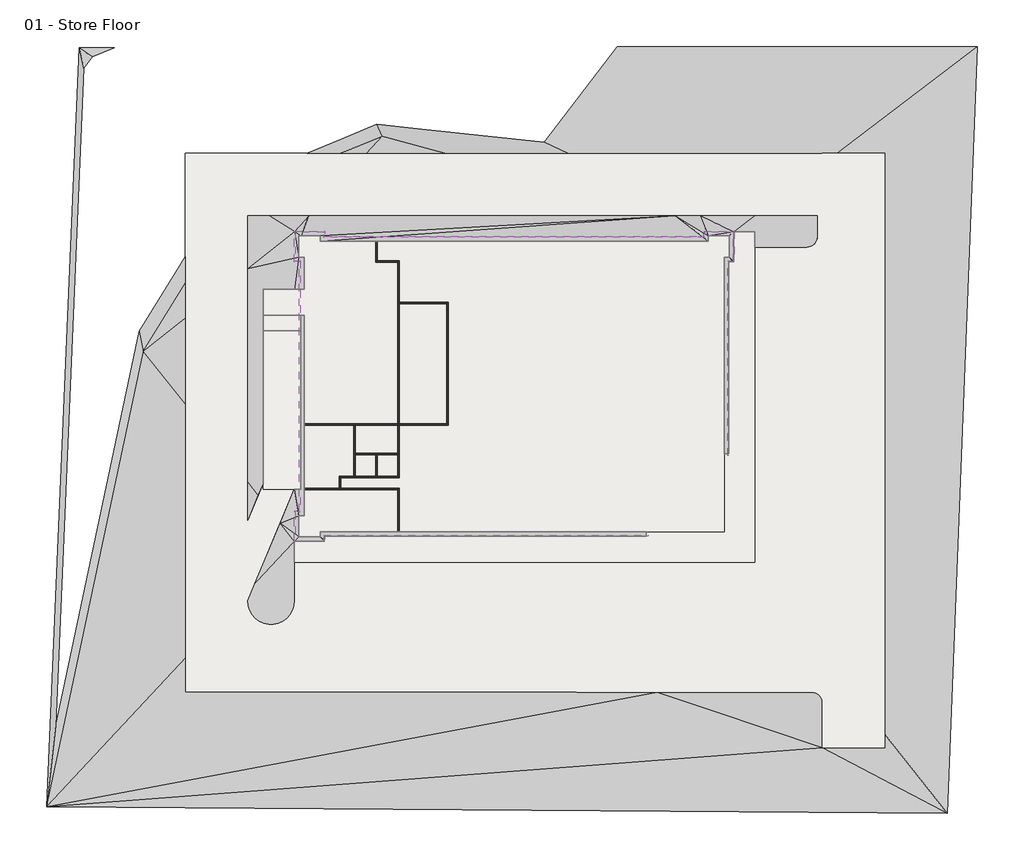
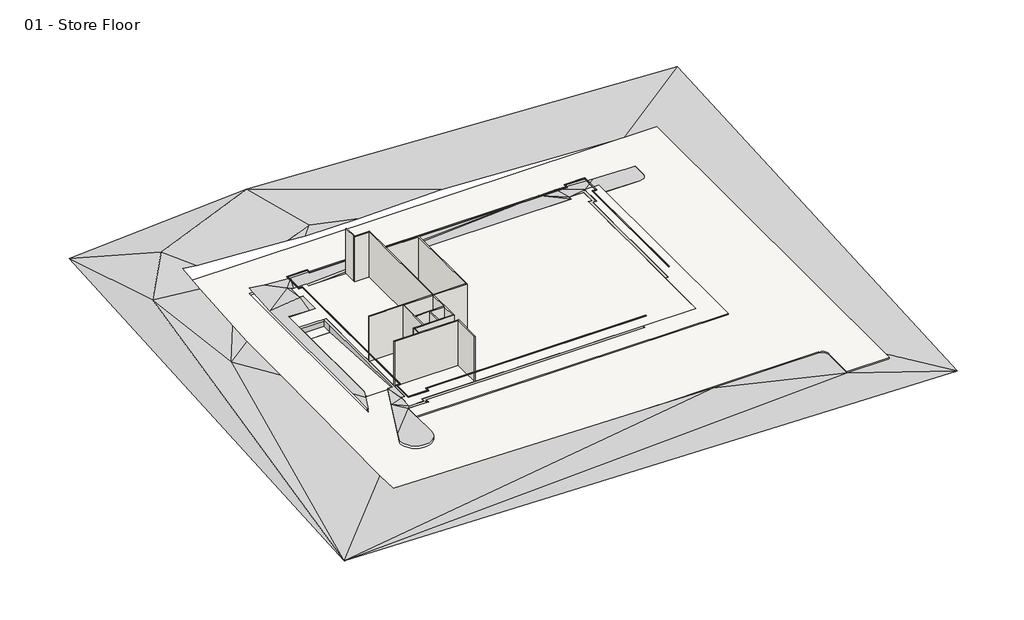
# One storey, incomplete: 21 proxies, 13 walls, 5 slabs.
"""IFC4 building model written with IfcOpenShell, lengths in millimetres."""

from ifc_helpers import new_model, si_unit, point, frame, frame_2d, origin, origin_with_axes, place, context, project, spatial, polyline, circle_curve, trimmed, segment, composite_curve, outline, extrude, faceted_brep, triangles, element, save

model = new_model("IFC4")

# Units and contexts
model_context = context("Model", 3, world=origin())
ifc_project = project(units=[si_unit("LENGTHUNIT", "METRE", prefix="MILLI")], contexts=[model_context])

# Site, building, storey
site = spatial("IfcSite", under=ifc_project)
building = spatial("IfcBuilding", under=site)
storey = spatial("IfcBuildingStorey", under=building, Name="01 - Store Floor", Elevation=0.0)

# Proxies
placement = place(None, origin())
element("IfcBuildingElementProxy", 1, Name="Reveals", at=placement, inside=storey, context=model_context, shape_type="SweptSolid", body=[
    extrude(outline(polyline([(11070.0272279, -14331.9313057), (11070.0272279, -14434.4313057), (-20003.9727721, -14434.4313057), (-20106.4727721, -14331.9313057), (11070.0272279, -14331.9313057)])), frame((0.0, 0.0, 1675.0), z_axis=(0.0, 0.0, 1.0), x_axis=(1.0, 0.0, 0.0)), (0.0, 0.0, 1.0), 75.0),
])
element("IfcBuildingElementProxy", 2, Name="Reveals", at=placement, inside=storey, context=model_context, shape_type="SweptSolid", body=[
    extrude(outline(polyline([(-20106.4727721, -14331.9313057), (-20003.9727721, -14434.4313057), (-20003.9727721, -14934.2313057), (-20106.4727721, -14831.7313057), (-20106.4727721, -14331.9313057)])), frame((0.0, 0.0, 1675.0), z_axis=(0.0, 0.0, 1.0), x_axis=(1.0, 0.0, 0.0)), (0.0, 0.0, 1.0), 75.0),
])
element("IfcBuildingElementProxy", 3, Name="Reveals", at=placement, inside=storey, context=model_context, shape_type="SweptSolid", body=[
    extrude(outline(polyline([(-20106.4727721, -14831.7313057), (-20003.9727721, -14934.2313057), (-22946.9727721, -14934.2313057), (-22844.4727721, -14831.7313057), (-20106.4727721, -14831.7313057)])), frame((0.0, 0.0, 1675.0), z_axis=(0.0, 0.0, 1.0), x_axis=(1.0, 0.0, 0.0)), (0.0, 0.0, 1.0), 75.0),
])
element("IfcBuildingElementProxy", 4, Name="Reveals", at=placement, inside=storey, context=model_context, shape_type="SweptSolid", body=[
    extrude(outline(polyline([(-22844.4727721, -14831.7313057), (-22946.9727721, -14934.2313057), (-22946.9727721, -11991.2313057), (-22844.4727721, -12093.7313057), (-22844.4727721, -14831.7313057)])), frame((0.0, 0.0, 1675.0), z_axis=(0.0, 0.0, 1.0), x_axis=(1.0, 0.0, 0.0)), (0.0, 0.0, 1.0), 75.0),
])
element("IfcBuildingElementProxy", 5, Name="Reveals", at=placement, inside=storey, context=model_context, shape_type="SweptSolid", body=[
    extrude(outline(polyline([(-22844.4727721, -12093.7313057), (-22946.9727721, -11991.2313057), (-22446.9727721, -11991.2313057), (-22344.4727721, -12093.7313057), (-22844.4727721, -12093.7313057)])), frame((0.0, 0.0, 1675.0), z_axis=(0.0, 0.0, 1.0), x_axis=(1.0, 0.0, 0.0)), (0.0, 0.0, 1.0), 75.0),
])
element("IfcBuildingElementProxy", 6, Name="Reveals", at=placement, inside=storey, context=model_context, shape_type="SweptSolid", body=[
    extrude(outline(polyline([(-22344.4727721, -12093.7313057), (-22446.9727721, -11991.2313057), (-22446.9727721, 11927.5686943), (-22344.4727721, 12030.0686943), (-22344.4727721, -12093.7313057)])), frame((0.0, 0.0, 1675.0), z_axis=(0.0, 0.0, 1.0), x_axis=(1.0, 0.0, 0.0)), (0.0, 0.0, 1.0), 75.0),
])
element("IfcBuildingElementProxy", 7, Name="Reveals", at=placement, inside=storey, context=model_context, shape_type="SweptSolid", body=[
    extrude(outline(polyline([(-22344.4727721, 12030.0686943), (-22446.9727721, 11927.5686943), (-22946.9727721, 11927.5686943), (-22844.4727721, 12030.0686943), (-22344.4727721, 12030.0686943)])), frame((0.0, 0.0, 1675.0), z_axis=(0.0, 0.0, 1.0), x_axis=(1.0, 0.0, 0.0)), (0.0, 0.0, 1.0), 75.0),
])
element("IfcBuildingElementProxy", 8, Name="Reveals", at=placement, inside=storey, context=model_context, shape_type="SweptSolid", body=[
    extrude(outline(polyline([(-22844.4727721, 12030.0686943), (-22946.9727721, 11927.5686943), (-22946.9727721, 14870.5686943), (-22844.4727721, 14768.0686943), (-22844.4727721, 12030.0686943)])), frame((0.0, 0.0, 1675.0), z_axis=(0.0, 0.0, 1.0), x_axis=(1.0, 0.0, 0.0)), (0.0, 0.0, 1.0), 75.0),
])
element("IfcBuildingElementProxy", 9, Name="Reveals", at=placement, inside=storey, context=model_context, shape_type="SweptSolid", body=[
    extrude(outline(polyline([(-22844.4727721, 14768.0686943), (-22946.9727721, 14870.5686943), (-20003.9727721, 14870.5686943), (-20106.4727721, 14768.0686943), (-22844.4727721, 14768.0686943)])), frame((0.0, 0.0, 1675.0), z_axis=(0.0, 0.0, 1.0), x_axis=(1.0, 0.0, 0.0)), (0.0, 0.0, 1.0), 75.0),
])
element("IfcBuildingElementProxy", 10, Name="Reveals", at=placement, inside=storey, context=model_context, shape_type="SweptSolid", body=[
    extrude(outline(polyline([(-20106.4727721, 14768.0686943), (-20003.9727721, 14870.5686943), (-20003.9727721, 14370.5686943), (-20106.4727721, 14268.0686943), (-20106.4727721, 14768.0686943)])), frame((0.0, 0.0, 1675.0), z_axis=(0.0, 0.0, 1.0), x_axis=(1.0, 0.0, 0.0)), (0.0, 0.0, 1.0), 75.0),
])
element("IfcBuildingElementProxy", 11, Name="Reveals", at=placement, inside=storey, context=model_context, shape_type="SweptSolid", body=[
    extrude(outline(polyline([(-20106.4727721, 14268.0686943), (-20003.9727721, 14370.5686943), (16365.0272279, 14370.5686943), (16467.5272279, 14268.0686943), (-20106.4727721, 14268.0686943)])), frame((0.0, 0.0, 1675.0), z_axis=(0.0, 0.0, 1.0), x_axis=(1.0, 0.0, 0.0)), (0.0, 0.0, 1.0), 75.0),
])
element("IfcBuildingElementProxy", 12, Name="Reveals", at=placement, inside=storey, context=model_context, shape_type="SweptSolid", body=[
    extrude(outline(polyline([(16467.5272279, 14268.0686943), (16365.0272279, 14370.5686943), (16365.0272279, 14870.5686943), (16467.5272279, 14768.0686943), (16467.5272279, 14268.0686943)])), frame((0.0, 0.0, 1675.0), z_axis=(0.0, 0.0, 1.0), x_axis=(1.0, 0.0, 0.0)), (0.0, 0.0, 1.0), 75.0),
])
element("IfcBuildingElementProxy", 13, Name="Reveals", at=placement, inside=storey, context=model_context, shape_type="SweptSolid", body=[
    extrude(outline(polyline([(16467.5272279, 14768.0686943), (16365.0272279, 14870.5686943), (19308.0272279, 14870.5686943), (19205.5272279, 14768.0686943), (16467.5272279, 14768.0686943)])), frame((0.0, 0.0, 1675.0), z_axis=(0.0, 0.0, 1.0), x_axis=(1.0, 0.0, 0.0)), (0.0, 0.0, 1.0), 75.0),
])
element("IfcBuildingElementProxy", 14, Name="Reveals", at=placement, inside=storey, context=model_context, shape_type="SweptSolid", body=[
    extrude(outline(polyline([(19205.5272279, 14768.0686943), (19308.0272279, 14870.5686943), (19308.0272279, 11927.5686943), (19205.5272279, 12030.0686943), (19205.5272279, 14768.0686943)])), frame((0.0, 0.0, 1675.0), z_axis=(0.0, 0.0, 1.0), x_axis=(1.0, 0.0, 0.0)), (0.0, 0.0, 1.0), 75.0),
])
element("IfcBuildingElementProxy", 15, Name="Reveals", at=placement, inside=storey, context=model_context, shape_type="SweptSolid", body=[
    extrude(outline(polyline([(19205.5272279, 12030.0686943), (19308.0272279, 11927.5686943), (18808.0272279, 11927.5686943), (18705.5272279, 12030.0686943), (19205.5272279, 12030.0686943)])), frame((0.0, 0.0, 1675.0), z_axis=(0.0, 0.0, 1.0), x_axis=(1.0, 0.0, 0.0)), (0.0, 0.0, 1.0), 75.0),
])
element("IfcBuildingElementProxy", 16, Name="Reveals", at=placement, inside=storey, context=model_context, shape_type="SweptSolid", body=[
    extrude(outline(polyline([(18705.5272279, 12030.0686943), (18808.0272279, 11927.5686943), (18808.0272279, -6696.4313057), (18705.5272279, -6696.4313057), (18705.5272279, 12030.0686943)])), frame((0.0, 0.0, 1675.0), z_axis=(0.0, 0.0, 1.0), x_axis=(1.0, 0.0, 0.0)), (0.0, 0.0, 1.0), 75.0),
])
element("IfcBuildingElementProxy", 17, Name="Building Element Proxy", at=placement, inside=storey, context=model_context, shape_type="Tessellation", body=[
    triangles([(-43566.3082031, 32462.523175, 1000.0000076), (-46716.2229126, -40393.2088623, 1000.0000076), (39777.6557373, -41004.7343262, -500.0000038), (42663.8237549, 32601.6611938, -500.0000038), (-18392.8342987, 32565.4122437, 2500.0000191), (33780.5264465, -34706.930365, -384.9401665), (27780.5275635, -34706.930365, -383.6411179), (27780.5275635, -30406.9323669, -305.9673343), (27731.5840393, -30097.9140198, -300.3747432), (27589.5438721, -29819.144989, -295.30841), (27368.3131897, -29597.9143066, -291.2642528), (27089.5441589, -29455.8741394, -288.6381413), (26780.5281372, -29406.9306152, -287.6871456), (11915.4122314, -29406.9306152, -284.4687919), (-33419.4717407, -29406.9306152, 509.2660807), (-33419.4717407, -26152.3013672, 432.8553014), (-33419.4717407, -1684.9523849, 719.9349804), (-33419.4717407, 6518.3399185, 720.4169277), (-33419.4717407, 9885.0384888, 1000.0000076), (-33419.4717407, 18055.2002563, 1642.8014694), (-33419.4717407, 22343.0687622, 2044.0540123), (-31378.0544861, 22343.0687622, 1780.8529266), (-25462.4923096, 22343.0687622, 1430.5636974), (-18450.5005463, 22343.0687622, 1000.0000076), (-16016.6502686, 22343.0687622, 817.2966974), (-8441.5899673, 22343.0687622, 817.7947048), (3306.7528107, 22343.0687622, 1051.3779762), (29175.0005859, 22343.0687622, -220.2242939), (33780.5264465, 22343.0687622, -317.0081938), (33780.5264465, 15117.0051819, -319.6062183), (33780.5264465, -33407.95849, -361.4759374), (26280.5260986, 13343.0692749, -162.6334778), (26589.5444458, 13392.0116364, -169.1097904), (26868.3134766, 13534.0518036, -174.9169577), (27089.5441589, 13755.2836487, -179.4865371), (27231.5843262, 14034.0515167, -182.3712447), (27280.5278503, 14343.0687012, -183.2886669), (27280.5278503, 16343.0687164, -182.5695974), (21285.7193481, 16343.0687164, -56.5903049), (16043.3172455, 16343.0687164, 201.1098175), (13662.4242004, 16343.0687164, 153.7723545), (-21518.9074402, 16343.0687164, 151.4593325), (-25294.1537476, 16343.0687164, 434.8579408), (-27419.4728577, 16343.0687164, 722.9589964), (-27419.4728577, 11264.0287354, 301.1768745), (-27419.4728577, -9240.2545898, 299.9721152), (-27419.4728577, -12884.300766, 257.215895), (-26417.4247192, -10502.0496643, 229.83499), (-25919.4737183, -9318.2271561, 195.0878195), (-25919.4737183, 5316.5097885, 195.9477053), (-25919.4737183, 6816.5095093, 196.0358358), (-25919.4737183, 9316.509819, 196.18272), (-22899.116217, 9316.509819, -14.9999997), (-21990.4716797, 9316.509819, -14.9999997), (-21990.4716797, 12384.0685089, -14.9999997), (-22490.4737183, 12384.0685089, -14.9999997), (-22490.4737183, 14414.0690186, -14.9999997), (-22283.239856, 14414.0690186, -14.9999997), (-20460.4720459, 14414.0690186, -14.9999997), (-20460.4720459, 13914.0681427, -14.9999997), (16821.5267212, 13914.0681427, -14.9999997), (16821.5267212, 14414.0690186, -14.9999997), (18851.5272308, 14414.0690186, -14.9999997), (18851.5272308, 12384.0685089, -14.9999997), (18351.5275177, 12384.0685089, -14.9999997), (18351.5275177, -6481.9310944, -14.9999997), (18780.5269135, -6481.9310944, -14.9999997), (18780.5269135, 11955.0691132, -14.9999997), (19231.5447327, 11955.0691132, -14.9999997), (19280.5277893, 11955.0691132, -16.029345), (19280.5277893, 14818.0687775, -14.9999997), (19280.5277893, 14843.0684143, -14.0659235), (19313.3990387, 14843.0684143, -15.6818087), (21280.5266418, 14843.0684143, -57.0204839), (21280.5266418, 13343.0692749, -57.559786), (-22919.473114, -16906.9308105, 31.9598247), (-22919.473114, -14906.7308075, -14.9999997), (-20031.4726501, -14906.7308075, -15.6252635), (-20031.4726501, -14872.1166412, -14.9999997), (-20031.4726501, -14406.9310822, -14.9999997), (10855.5269257, -14406.9310822, -14.9999997), (10855.5269257, -13977.9316864, -14.9999997), (-20460.4720459, -13977.9316864, -14.9999997), (-20460.4720459, -14477.7314117, -14.9999997), (-22490.4737183, -14477.7314117, -14.9999997), (-22490.4737183, -12447.7309021, -14.9999997), (-21990.4716797, -12447.7309021, -14.9999997), (-21990.4716797, 6816.5095093, -14.9999997), (-22319.4725281, 6816.5095093, -14.9999997), (-22319.4725281, 5316.5097885, -14.9999997), (-22319.4725281, -9923.4907928, -14.9999997), (-22915.2849976, -9923.4907928, -14.9999997), (-22919.473114, -9923.4907928, -14.7072021), (-24289.7755188, -13181.2233398, 80.9126756), (-26734.0263245, -18992.1430664, 147.701713), (-27419.4728577, -20621.7110413, 197.9609908), (-27370.3037659, -21089.5127197, 208.0829929), (-27224.9498474, -21536.8691345, 216.040901), (-26989.7618774, -21944.2279907, 221.4869712), (-26675.0159729, -22293.7880493, 224.1831366), (-26294.471759, -22570.2688477, 224.0115809), (-25864.7607788, -22761.5897278, 220.9798074), (-25404.6609558, -22859.386084, 215.2203116), (-24934.2826904, -22859.386084, 206.9848041), (-24474.1851929, -22761.5897278, 196.6332376), (-24044.4718872, -22570.2688477, 184.6180007), (-23663.9299988, -22293.7880493, 171.4642251), (-23349.1840942, -21944.2279907, 157.746803), (-23113.9961243, -21536.8691345, 144.0652526), (-22968.6398804, -21089.5127197, 131.0175116), (-22919.473114, -20621.7110413, 119.1738304), (-34204.7703186, 26133.4374023, 2500.0000191), (-40234.7441162, 17825.4724182, 2500.0000191), (-14506.8505646, 23989.4473389, 1000.0000076), (-37420.7554138, 3353.5319321, 1000.0000076), (-22894.4723145, 14843.0684143, -14.9999997)], [[2, 15, 16], [115, 2, 16], [96, 101, 102], [97, 100, 101], [102, 103, 96], [97, 98, 100], [96, 97, 101], [96, 111, 95], [98, 99, 100], [104, 96, 103], [46, 47, 48], [105, 106, 96], [106, 107, 96], [108, 109, 96], [110, 96, 109], [107, 108, 96], [110, 111, 96], [95, 76, 77], [78, 85, 77], [94, 77, 85], [94, 95, 77], [95, 111, 76], [86, 93, 94], [91, 86, 87], [92, 93, 86], [86, 91, 92], [86, 94, 85], [105, 96, 104], [14, 15, 2], [115, 18, 19], [18, 115, 17], [115, 19, 113], [44, 45, 43], [52, 45, 51], [49, 50, 46], [115, 16, 17], [1, 113, 112], [1, 2, 113], [112, 113, 21], [5, 1, 112], [20, 113, 19], [21, 22, 112], [20, 21, 113], [112, 22, 23], [45, 52, 56], [113, 2, 115], [50, 51, 45], [46, 50, 45], [88, 89, 90], [87, 88, 91], [46, 48, 49], [45, 116, 43], [56, 116, 45], [42, 43, 116], [52, 53, 56], [56, 53, 54], [57, 58, 116], [56, 57, 116], [54, 55, 56], [42, 116, 58], [5, 112, 23], [83, 84, 80], [85, 78, 84], [79, 84, 78], [79, 80, 84], [82, 80, 81], [82, 83, 80], [88, 90, 91], [66, 67, 68], [65, 68, 64], [68, 65, 66], [10, 8, 9], [7, 8, 13], [6, 3, 31], [3, 6, 7], [7, 14, 2], [8, 10, 11], [69, 70, 64], [64, 68, 69], [11, 12, 13], [11, 13, 8], [75, 32, 74], [31, 3, 30], [13, 14, 7], [2, 3, 7], [64, 70, 71], [59, 60, 41], [59, 42, 58], [62, 40, 41], [72, 62, 63], [62, 72, 40], [62, 41, 61], [41, 60, 61], [24, 5, 23], [5, 24, 114], [27, 5, 26], [25, 114, 24], [114, 25, 26], [5, 114, 26], [42, 59, 41], [4, 5, 27], [64, 71, 63], [71, 72, 63], [34, 35, 37], [36, 37, 35], [34, 37, 33], [32, 37, 38], [73, 74, 39], [39, 74, 32], [39, 32, 38], [73, 39, 72], [29, 4, 28], [4, 29, 30], [30, 3, 4], [4, 27, 28], [40, 72, 39], [33, 37, 32]], closed=False),
])
element("IfcBuildingElementProxy", 18, Name="Building Element Proxy", at=placement, inside=storey, context=model_context, shape_type="Tessellation", body=[
    triangles([(10855.5269257, -13977.9316864, -304.9595106), (10855.5269257, -13977.9316864, -14.9999997), (-20460.4720459, -13977.9316864, -304.9595106), (-20460.4720459, -13977.9316864, -14.9999997), (-20460.4720459, -14477.7314117, -304.9595106), (-20460.4720459, -14477.7314117, -14.9999997), (-22490.4737183, -14477.7314117, -304.9595106), (-22490.4737183, -14477.7314117, -14.9999997), (-22490.4737183, -12447.7309021, -304.9595106), (-22490.4737183, -12447.7309021, -14.9999997), (-21990.4716797, -12447.7309021, -304.9595106), (-21990.4716797, -12447.7309021, -14.9999997), (-21990.4716797, 6816.5095093, -304.9595106), (-21990.4716797, 6816.5095093, -14.9999997), (-22319.4725281, 6816.5095093, -304.9595106), (-22319.4725281, 6816.5095093, -14.9999997)], [[1, 4, 2], [1, 3, 4], [3, 6, 4], [3, 5, 6], [5, 8, 6], [5, 7, 8], [7, 10, 8], [7, 9, 10], [9, 12, 10], [9, 11, 12], [11, 14, 12], [11, 13, 14], [13, 16, 14], [13, 15, 16]], closed=False),
    triangles([(-25919.4737183, 6816.5095093, -304.9595106), (-25919.4737183, 6816.5095093, 196.0358358), (-25919.4737183, 9316.509819, -304.9595106), (-25919.4737183, 9316.509819, 196.18272), (-22899.116217, 9316.509819, -304.9595106), (-22899.116217, 9316.509819, -14.9999997), (-21990.4716797, 9316.509819, -304.9595106), (-21990.4716797, 9316.509819, -14.9999997), (-21990.4716797, 12384.0685089, -304.9595106), (-21990.4716797, 12384.0685089, -14.9999997), (-22490.4737183, 12384.0685089, -304.9595106), (-22490.4737183, 12384.0685089, -14.9999997), (-22490.4737183, 14414.0690186, -304.9595106), (-22490.4737183, 14414.0690186, -14.9999997), (-22283.239856, 14414.0690186, -304.9595106), (-22283.239856, 14414.0690186, -14.9999997), (-20460.4720459, 14414.0690186, -304.9595106), (-20460.4720459, 14414.0690186, -14.9999997), (-20460.4720459, 13914.0681427, -304.9595106), (-20460.4720459, 13914.0681427, -14.9999997), (16821.5267212, 13914.0681427, -304.9595106), (16821.5267212, 13914.0681427, -14.9999997), (16821.5267212, 14414.0690186, -304.9595106), (16821.5267212, 14414.0690186, -14.9999997), (18851.5272308, 14414.0690186, -304.9595106), (18851.5272308, 14414.0690186, -14.9999997), (18851.5272308, 12384.0685089, -304.9595106), (18851.5272308, 12384.0685089, -14.9999997), (18351.5275177, 12384.0685089, -304.9595106), (18351.5275177, 12384.0685089, -14.9999997), (18351.5275177, -6481.9310944, -304.9595106), (18351.5275177, -6481.9310944, -14.9999997)], [[1, 4, 2], [1, 3, 4], [3, 6, 4], [3, 5, 6], [5, 8, 6], [5, 7, 8], [7, 10, 8], [7, 9, 10], [9, 12, 10], [9, 11, 12], [11, 14, 12], [11, 13, 14], [13, 16, 14], [13, 15, 16], [15, 18, 16], [15, 17, 18], [17, 20, 18], [17, 19, 20], [19, 22, 20], [19, 21, 22], [21, 24, 22], [21, 23, 24], [23, 26, 24], [23, 25, 26], [25, 28, 26], [25, 27, 28], [27, 30, 28], [27, 29, 30], [29, 32, 30], [29, 31, 32]], closed=False),
    triangles([(16821.5267212, 13914.0681427, -304.9595106), (-20460.4720459, 13914.0681427, -304.9595106), (-20460.4720459, 14414.0690186, -304.9595106), (-22490.4737183, 14414.0690186, -304.9595106), (-22490.4737183, 12384.0685089, -304.9595106), (-21990.4716797, 12384.0685089, -304.9595106), (-21990.4716797, 9316.509819, -304.9595106), (-25919.4737183, 9316.509819, -304.9595106), (-25919.4737183, 6816.5095093, -304.9595106), (-21990.4716797, 6816.5095093, -304.9595106), (-21990.4716797, -12447.7309021, -304.9595106), (-22490.4737183, -12447.7309021, -304.9595106), (-22490.4737183, -14477.7314117, -304.9595106), (-20460.4720459, -14477.7314117, -304.9595106), (-20460.4720459, -13977.9316864, -304.9595106), (10855.5269257, -13977.9316864, -304.9595106), (18351.5275177, -13977.9316864, -304.9595106), (18351.5275177, -6481.9310944, -304.9595106), (18351.5275177, 12384.0685089, -304.9595106), (18851.5272308, 12384.0685089, -304.9595106), (18851.5272308, 14414.0690186, -304.9595106), (16821.5267212, 14414.0690186, -304.9595106)], [[11, 12, 13], [2, 7, 10], [13, 15, 11], [9, 10, 7], [4, 5, 6], [2, 4, 6], [7, 2, 6], [4, 2, 3], [8, 9, 7], [10, 11, 15], [16, 10, 15], [16, 17, 18], [1, 10, 16], [1, 16, 18], [10, 1, 2], [22, 1, 21], [19, 20, 21], [19, 21, 1], [18, 19, 1], [15, 13, 14]], closed=False),
])
element("IfcBuildingElementProxy", 19, Name="Building Element Proxy", at=placement, inside=storey, context=model_context, shape_type="Tessellation", body=[
    triangles([(10855.5269257, -13977.9316864, -304.9595106), (10855.5269257, -13977.9316864, -14.9999997), (10855.5269257, -14406.9310822, -304.9595106), (10855.5269257, -14406.9310822, -14.9999997), (-20031.4726501, -14406.9310822, -304.9595106), (-20031.4726501, -14406.9310822, -14.9999997), (-20031.4726501, -14872.1166412, -304.9595106), (-20031.4726501, -14872.1166412, -14.9999997), (-20031.4726501, -14906.7308075, -304.9595106), (-20031.4726501, -14906.7308075, -15.6252635), (-22919.473114, -14906.7308075, -304.9595106), (-22919.473114, -14906.7308075, -14.9999997), (-22919.473114, -16906.9308105, -304.9595106), (-22919.473114, -16906.9308105, 31.9598247)], [[1, 4, 2], [1, 3, 4], [3, 6, 4], [3, 5, 6], [5, 8, 6], [5, 7, 8], [7, 10, 8], [7, 9, 10], [9, 12, 10], [9, 11, 12], [11, 14, 12], [11, 13, 14]], closed=False),
    triangles([(18351.5275177, -6481.9310944, -304.9595106), (18351.5275177, -6481.9310944, -14.9999997), (18780.5269135, -6481.9310944, -304.9595106), (18780.5269135, -6481.9310944, -14.9999997), (18780.5269135, 11955.0691132, -304.9595106), (18780.5269135, 11955.0691132, -14.9999997), (19231.5447327, 11955.0691132, -304.9595106), (19231.5447327, 11955.0691132, -14.9999997), (19280.5277893, 11955.0691132, -304.9595106), (19280.5277893, 11955.0691132, -16.029345), (19280.5277893, 14818.0687775, -304.9595106), (19280.5277893, 14818.0687775, -14.9999997), (19280.5277893, 14843.0684143, -304.9595106), (19280.5277893, 14843.0684143, -14.0659235), (19313.3990387, 14843.0684143, -304.9595106), (19313.3990387, 14843.0684143, -15.6818087), (21280.5266418, 14843.0684143, -304.9595106), (21280.5266418, 14843.0684143, -57.0204839), (21280.5266418, 13343.0692749, -304.9595106), (21280.5266418, 13343.0692749, -57.559786)], [[1, 4, 2], [1, 3, 4], [3, 6, 4], [3, 5, 6], [5, 8, 6], [5, 7, 8], [7, 10, 8], [7, 9, 10], [9, 12, 10], [9, 11, 12], [11, 14, 12], [11, 13, 14], [13, 16, 14], [13, 15, 16], [15, 18, 16], [15, 17, 18], [17, 20, 18], [17, 19, 20]], closed=False),
    triangles([(21280.5266418, 14843.0684143, -304.9595106), (19280.5277893, 14843.0684143, -304.9595106), (19280.5277893, 11955.0691132, -304.9595106), (18780.5269135, 11955.0691132, -304.9595106), (18780.5269135, -6481.9310944, -304.9595106), (18351.5275177, -6481.9310944, -304.9595106), (18351.5275177, -13977.9316864, -304.9595106), (10855.5269257, -13977.9316864, -304.9595106), (10855.5269257, -14406.9310822, -304.9595106), (-20031.4726501, -14406.9310822, -304.9595106), (-20031.4726501, -14906.7308075, -304.9595106), (-22919.473114, -14906.7308075, -304.9595106), (-22919.473114, -16906.9308105, -304.9595106), (21280.5266418, -16906.9308105, -304.9595106)], [[13, 11, 12], [11, 13, 9], [7, 8, 9], [10, 11, 9], [13, 14, 9], [7, 14, 5], [14, 7, 9], [5, 14, 1], [3, 4, 5], [1, 2, 3], [3, 5, 1], [5, 6, 7]], closed=False),
])
element("IfcBuildingElementProxy", 20, Name="Building Element Proxy", at=placement, inside=storey, context=model_context, shape_type="Tessellation", body=[
    triangles([(-25919.4737183, 5316.5097885, -1369.9595478), (-25919.4737183, 5316.5097885, -1370.3489136), (-22902.4788025, 5316.5097885, -1369.9595478), (-22902.4788025, 5316.5097885, -1370.3489136), (-22319.4725281, 5316.5097885, -1369.9595478), (-22319.4725281, 5316.5097885, -1370.3489136)], [[1, 4, 2], [1, 3, 4], [3, 6, 4], [3, 5, 6]], closed=False),
    triangles([(-25919.4737183, 6816.5095093, -1369.9595478), (-25919.4737183, 6816.5095093, -304.9595106), (-22901.2184143, 6816.5095093, -1369.9595478), (-22901.2184143, 6816.5095093, -304.9595106), (-22319.4725281, 6816.5095093, -1369.9595478), (-22319.4725281, 6816.5095093, -304.9595106)], [[1, 4, 2], [1, 3, 4], [3, 6, 4], [3, 5, 6]], closed=False),
    triangles([(-22319.4725281, 5316.5097885, -1369.9595478), (-22319.4725281, 5316.5097885, -14.9999997), (-22319.4725281, 6816.5095093, -1369.9595478), (-22319.4725281, 6816.5095093, -14.9999997)], [[1, 4, 2], [1, 3, 4]], closed=False),
    triangles([(-25919.4737183, 6816.5095093, -1369.9595478), (-25919.4737183, 6816.5095093, 196.0358358), (-25919.4737183, 5316.5097885, -1369.9595478), (-25919.4737183, 5316.5097885, 195.9477053)], [[1, 4, 2], [1, 3, 4]], closed=False),
    triangles([(-25919.4737183, 6816.5095093, -1369.9595478), (-25919.4737183, 5316.5097885, -1369.9595478), (-22319.4725281, 5316.5097885, -1369.9595478), (-22319.4725281, 6816.5095093, -1369.9595478)], [[1, 2, 3], [3, 4, 1]], closed=False),
])
element("IfcBuildingElementProxy", 21, Name="Building Element Proxy", at=placement, inside=storey, context=model_context, shape_type="Tessellation", body=[
    triangles([(-22319.4725281, 5316.5097885, -1370.3489136), (-22319.4725281, 5316.5097885, -14.9999997), (-22319.4725281, -9923.4907928, -455.3488775), (-22319.4725281, -9923.4907928, -14.9999997), (-22915.2849976, -9923.4907928, -455.3488775), (-22915.2849976, -9923.4907928, -14.9999997), (-22919.473114, -9923.4907928, -455.3488775), (-22919.473114, -9923.4907928, -14.7072021)], [[1, 4, 2], [1, 3, 4], [3, 6, 4], [3, 5, 6], [5, 8, 6], [5, 7, 8]], closed=False),
    triangles([(-25919.4737183, 5316.5097885, -1370.3489136), (-25919.4737183, 5316.5097885, 195.9477053), (-25919.4737183, -9318.2271561, -491.6884835), (-25919.4737183, -9318.2271561, 195.0878195)], [[1, 4, 2], [1, 3, 4]], closed=False),
    triangles([(-25919.4737183, 5316.5097885, -1370.3489136), (-25919.4737183, -9923.4907928, -455.3488775), (-22319.4725281, -9923.4907928, -455.3488775), (-22319.4725281, 5316.5097885, -1370.3489136)], [[1, 2, 3], [3, 4, 1]], closed=False),
])

# Slabs
element("IfcSlab", 22, ObjectType="Pad 1", at=placement, inside=storey, context=model_context, shape_type="SweptSolid", body=[
    extrude(outline(polyline([(16821.5272279, 13914.0686943), (16821.5272279, 14414.0686943), (18851.5272279, 14414.0686943), (18851.5272279, 12384.0686943), (18351.5272279, 12384.0686943), (18351.5272279, -6481.9313057), (18351.5272279, -13977.9313057), (10855.5272279, -13977.9313057), (-20460.4727721, -13977.9313057), (-20460.4727721, -14477.7313057), (-22490.4727721, -14477.7313057), (-22490.4727721, -12447.7313057), (-21990.4727721, -12447.7313057), (-21990.4727721, 6816.509692), (-25919.4727721, 6816.509692), (-25919.4727721, 9316.509692), (-21990.4727721, 9316.509692), (-21990.4727721, 12384.0686943), (-22490.4727721, 12384.0686943), (-22490.4727721, 14414.0686943), (-20460.4727721, 14414.0686943), (-20460.4727721, 13914.0686943), (16821.5272279, 13914.0686943)])), frame((0.0, 0.0, -304.8), z_axis=(0.0, 0.0, 1.0), x_axis=(1.0, 0.0, 0.0)), (0.0, 0.0, 1.0), 304.8),
])
element("IfcSlab", 23, ObjectType="Pad 1", at=placement, inside=storey, context=model_context, shape_type="SweptSolid", body=[
    extrude(outline(polyline([(21280.5272279, 14843.0686943), (21280.5272279, -16906.9313057), (-22919.4727721, -16906.9313057), (-22919.4727721, -14906.7313057), (-20031.4727721, -14906.7313057), (-20031.4727721, -14406.9313057), (10855.5272279, -14406.9313057), (10855.5272279, -13977.9313057), (18351.5272279, -13977.9313057), (18351.5272279, -6481.9313057), (18780.5272279, -6481.9313057), (18780.5272279, 11955.0686943), (19280.5272279, 11955.0686943), (19280.5272279, 14843.0686943), (21280.5272279, 14843.0686943)])), frame((0.0, 0.0, -304.8), z_axis=(0.0, 0.0, 1.0), x_axis=(1.0, 0.0, 0.0)), (0.0, 0.0, 1.0), 304.8),
])
element("IfcSlab", 24, ObjectType="Pad 1", at=placement, inside=storey, context=model_context, shape_type="SweptSolid", body=[
    extrude(outline(composite_curve([segment(polyline([(33780.5272279, -34706.9313057), (27780.5272279, -34706.9313057), (27780.5272279, -30406.9313057)]), True, "CONTINUOUS"), segment(trimmed(circle_curve(frame_2d((26780.5272279, -30406.9313057)), 1000.0), [point((27780.5272279, -30406.9313057))], [point((26780.5272279, -29406.9313057))], True, "CARTESIAN"), True, "CONTINUOUS"), segment(polyline([(26780.5272279, -29406.9313057), (-33419.4727721, -29406.9313057), (-33419.4727721, 22343.0686943), (33780.5272279, 22343.0686943), (33780.5272279, -34706.9313057)]), True, "CONTINUOUS")], self_intersect=False), holes=[composite_curve([segment(trimmed(circle_curve(frame_2d((26280.5272279, 14343.0686943)), 1000.0), [point((26280.5272279, 13343.0686943))], [point((27280.5272279, 14343.0686943))], True, "CARTESIAN"), True, "CONTINUOUS"), segment(polyline([(27280.5272279, 14343.0686943), (27280.5272279, 16343.0686943), (-27419.4727721, 16343.0686943), (-27419.4727721, -12884.3008421), (-25919.4727721, -9318.2269035), (-25919.4727721, -9923.490308), (-22919.4727721, -9923.490308), (-27419.4727721, -20621.7121237)]), True, "CONTINUOUS"), segment(trimmed(circle_curve(frame_2d((-25169.4727721, -20621.7121237)), 2250.0), [point((-27419.4727721, -20621.7121237))], [point((-22919.4727721, -20621.7121237))], True, "CARTESIAN"), True, "CONTINUOUS"), segment(polyline([(-22919.4727721, -20621.7121237), (-22919.4727721, -16906.9313057), (21280.5272279, -16906.9313057), (21280.5272279, 13343.0686943), (26280.5272279, 13343.0686943)]), True, "CONTINUOUS")], self_intersect=False)]), frame((0.0, 0.0, -454.8), z_axis=(0.0, 0.0, 1.0), x_axis=(1.0, 0.0, 0.0)), (0.0, 0.0, 1.0), 304.8),
])
element("IfcSlab", 25, ObjectType="Pad 1", at=placement, inside=storey, context=model_context, shape_type="SweptSolid", body=[
    extrude(outline(polyline([(-25919.4727721, 6816.509692), (-22319.4727721, 6816.509692), (-22319.4727721, 5316.509692), (-25919.4727721, 5316.509692), (-25919.4727721, 6816.509692)])), frame((0.0, 0.0, -1369.8), z_axis=(0.0, 0.0, 1.0), x_axis=(1.0, 0.0, 0.0)), (0.0, 0.0, 1.0), 304.8),
])
element("IfcSlab", 26, ObjectType="Pad 1", at=placement, inside=storey, context=model_context, shape_type="SweptSolid", body=[
    extrude(outline(polyline([(5316.509692, -1370.3488661), (-9923.490308, -455.3488661), (-9923.490308, -150.0), (5316.509692, -1065.0), (5316.509692, -1370.3488661)])), frame((-25919.4727721, 0.0, 0.0), z_axis=(1.0, 0.0, 0.0), x_axis=(0.0, 1.0, 0.0)), (0.0, 0.0, 1.0), 3600.0),
])

# Walls
element("IfcWall", 27, ObjectType="Interior - 138mm Partition (1-hr)", at=placement, inside=storey, context=model_context, shape_type="Brep", body=[
    faceted_brep([(-12850.2227721, -13977.9313057, 0.0), (-12850.2227721, -9826.1813057, 0.0), (-12850.2227721, -9826.1813057, 6750.0), (-12850.2227721, -13977.9313057, 6750.0), (-12988.7227721, -13977.9313057, 0.0), (-12988.7227721, -13977.9313057, 6750.0), (-12988.7227721, -9964.6813057, 6750.0), (-12988.7227721, -9826.1813057, 6750.0), (-12988.7227721, -9826.1813057, 0.0), (-12988.7227721, -9964.6813057, 0.0)], [[[0, 1, 2, 3]], [[4, 5, 6, 7, 8, 9]], [[1, 0, 4, 9, 8]], [[0, 3, 5, 4]], [[2, 1, 8, 7]], [[3, 2, 7, 6, 5]]]),
])
element("IfcWall", 28, ObjectType="Interior - 138mm Partition (1-hr)", at=placement, inside=storey, context=model_context, shape_type="Brep", body=[
    faceted_brep([(-12988.7227721, 12024.3186943, 0.0), (-14950.2227721, 12024.3186943, 0.0), (-15088.7227721, 12024.3186943, 0.0), (-15088.7227721, 12024.3186943, 6750.0), (-14950.2227721, 12024.3186943, 6750.0), (-12988.7227721, 12024.3186943, 6750.0), (-12988.7227721, 11885.8186943, 0.0), (-12988.7227721, 11885.8186943, 6750.0), (-15088.7227721, 11885.8186943, 6750.0), (-15088.7227721, 11885.8186943, 0.0)], [[[0, 1, 2, 3, 4, 5]], [[6, 7, 8, 9]], [[2, 1, 0, 6, 9]], [[0, 5, 7, 6]], [[3, 2, 9, 8]], [[5, 4, 3, 8, 7]]]),
])
element("IfcWall", 29, ObjectType="Interior - 138mm Partition (1-hr)", at=placement, inside=storey, context=model_context, shape_type="SweptSolid", body=[
    extrude(outline(polyline([(-14950.2227721, 13914.0686943), (-14950.2227721, 12024.3186943), (-15088.7227721, 12024.3186943), (-15088.7227721, 13914.0686943), (-14950.2227721, 13914.0686943)])), origin_with_axes(), (0.0, 0.0, 1.0), 6750.0),
])
element("IfcWall", 30, ObjectType="Interior - 138mm Partition (1-hr)", at=placement, inside=storey, context=model_context, shape_type="Brep", body=[
    faceted_brep([(-12850.2227721, -8637.6813057, 0.0), (-12988.7227721, -8637.6813057, 0.0), (-14965.5977721, -8637.6813057, 0.0), (-15104.0977721, -8637.6813057, 0.0), (-17080.9727721, -8637.6813057, 0.0), (-17219.4727721, -8637.6813057, 0.0), (-18588.7227721, -8637.6813057, 0.0), (-18588.7227721, -8637.6813057, 6750.0), (-17219.4727721, -8637.6813057, 6750.0), (-17080.9727721, -8637.6813057, 6750.0), (-15104.0977721, -8637.6813057, 6750.0), (-14965.5977721, -8637.6813057, 6750.0), (-12988.7227721, -8637.6813057, 6750.0), (-12850.2227721, -8637.6813057, 6750.0), (-12850.2227721, -8776.1813057, 0.0), (-12850.2227721, -8776.1813057, 6750.0), (-18450.2227721, -8776.1813057, 6750.0), (-18588.7227721, -8776.1813057, 6750.0), (-18588.7227721, -8776.1813057, 0.0), (-18450.2227721, -8776.1813057, 0.0)], [[[0, 1, 2, 3, 4, 5, 6, 7, 8, 9, 10, 11, 12, 13]], [[14, 15, 16, 17, 18, 19]], [[6, 5, 4, 3, 2, 1, 0, 14, 19, 18]], [[7, 6, 18, 17]], [[0, 13, 15, 14]], [[13, 12, 11, 10, 9, 8, 7, 17, 16, 15]]]),
])
element("IfcWall", 31, ObjectType="Interior - 138mm Partition (1-hr)", at=placement, inside=storey, context=model_context, shape_type="SweptSolid", body=[
    extrude(outline(polyline([(-18588.7227721, -9826.1813057), (-18588.7227721, -8776.1813057), (-18450.2227721, -8776.1813057), (-18450.2227721, -9826.1813057), (-18588.7227721, -9826.1813057)])), origin_with_axes(), (0.0, 0.0, 1.0), 6750.0),
])
element("IfcWall", 32, ObjectType="Interior - 138mm Partition (1-hr)", at=placement, inside=storey, context=model_context, shape_type="Brep", body=[
    faceted_brep([(-21990.4727721, -9964.6813057, 0.0), (-12988.7227721, -9964.6813057, 0.0), (-12988.7227721, -9964.6813057, 6750.0), (-21990.4727721, -9964.6813057, 6750.0), (-21990.4727721, -9826.1813057, 0.0), (-21990.4727721, -9826.1813057, 6750.0), (-18588.7227721, -9826.1813057, 6750.0), (-18450.2227721, -9826.1813057, 6750.0), (-12988.7227721, -9826.1813057, 6750.0), (-12988.7227721, -9826.1813057, 0.0), (-18450.2227721, -9826.1813057, 0.0), (-18588.7227721, -9826.1813057, 0.0)], [[[0, 1, 2, 3]], [[4, 5, 6, 7, 8, 9, 10, 11]], [[1, 0, 4, 11, 10, 9]], [[0, 3, 5, 4]], [[2, 1, 9, 8]], [[3, 2, 8, 7, 6, 5]]]),
])
element("IfcWall", 33, ObjectType="Interior - 138mm Partition (1-hr)", at=placement, inside=storey, context=model_context, shape_type="Brep", body=[
    faceted_brep([(-17080.9727721, -8637.6813057, 0.0), (-17080.9727721, -6606.9313057, 0.0), (-17080.9727721, -6468.4313057, 0.0), (-17080.9727721, -3776.1813057, 0.0), (-17080.9727721, -3776.1813057, 6750.0), (-17080.9727721, -6468.4313057, 6750.0), (-17080.9727721, -6606.9313057, 6750.0), (-17080.9727721, -8637.6813057, 6750.0), (-17219.4727721, -8637.6813057, 0.0), (-17219.4727721, -8637.6813057, 6750.0), (-17219.4727721, -3776.1813057, 6750.0), (-17219.4727721, -3776.1813057, 0.0)], [[[0, 1, 2, 3, 4, 5, 6, 7]], [[8, 9, 10, 11]], [[3, 2, 1, 0, 8, 11]], [[0, 7, 9, 8]], [[4, 3, 11, 10]], [[7, 6, 5, 4, 10, 9]]]),
])
element("IfcWall", 34, ObjectType="Interior - 138mm Partition (1-hr)", at=placement, inside=storey, context=model_context, shape_type="Brep", body=[
    faceted_brep([(-21990.4727721, -3637.6813057, 0.0), (-21990.4727721, -3637.6813057, 6750.0), (-12988.7227721, -3637.6813057, 6750.0), (-12988.7227721, -3637.6813057, 0.0), (-21990.4727721, -3776.1813057, 6750.0), (-21990.4727721, -3776.1813057, 0.0), (-17219.4727721, -3776.1813057, 0.0), (-17080.9727721, -3776.1813057, 0.0), (-12988.7227721, -3776.1813057, 0.0), (-12988.7227721, -3776.1813057, 6750.0), (-17080.9727721, -3776.1813057, 6750.0), (-17219.4727721, -3776.1813057, 6750.0)], [[[0, 1, 2, 3]], [[4, 5, 6, 7, 8, 9, 10, 11]], [[5, 0, 3, 8, 7, 6]], [[1, 0, 5, 4]], [[3, 2, 9, 8]], [[1, 4, 11, 10, 9, 2]]]),
    faceted_brep([(-8135.7227721, -3637.6813057, 6750.0), (-8135.7227721, -3637.6813057, 0.0), (-8274.2227721, -3637.6813057, 0.0), (-12850.2227721, -3637.6813057, 0.0), (-12850.2227721, -3637.6813057, 6750.0), (-8274.2227721, -3637.6813057, 6750.0), (-8135.7227721, -3776.1813057, 0.0), (-8135.7227721, -3776.1813057, 6750.0), (-12850.2227721, -3776.1813057, 6750.0), (-12850.2227721, -3776.1813057, 0.0)], [[[0, 1, 2, 3, 4, 5]], [[6, 7, 8, 9]], [[1, 6, 9, 3, 2]], [[1, 0, 7, 6]], [[4, 3, 9, 8]], [[7, 0, 5, 4, 8]]]),
])
element("IfcWall", 35, ObjectType="Interior - 138mm Partition (1-hr)", at=placement, inside=storey, context=model_context, shape_type="Brep", body=[
    faceted_brep([(-8135.7227721, -3637.6813057, 0.0), (-8135.7227721, 8062.3186943, 0.0), (-8135.7227721, 8062.3186943, 6750.0), (-8135.7227721, -3637.6813057, 6750.0), (-8274.2227721, -3637.6813057, 0.0), (-8274.2227721, -3637.6813057, 6750.0), (-8274.2227721, 7923.8186943, 6750.0), (-8274.2227721, 8062.3186943, 6750.0), (-8274.2227721, 8062.3186943, 0.0), (-8274.2227721, 7923.8186943, 0.0)], [[[0, 1, 2, 3]], [[4, 5, 6, 7, 8, 9]], [[1, 0, 4, 9, 8]], [[0, 3, 5, 4]], [[2, 1, 8, 7]], [[3, 2, 7, 6, 5]]]),
])
element("IfcWall", 36, ObjectType="Interior - 138mm Partition (1-hr)", at=placement, inside=storey, context=model_context, shape_type="SweptSolid", body=[
    extrude(outline(polyline([(-12850.2227721, 8062.3186943), (-8274.2227721, 8062.3186943), (-8274.2227721, 7923.8186943), (-12850.2227721, 7923.8186943), (-12850.2227721, 8062.3186943)])), origin_with_axes(), (0.0, 0.0, 1.0), 6750.0),
])
element("IfcWall", 37, ObjectType="Interior - 138mm Partition (1-hr)", at=placement, inside=storey, context=model_context, shape_type="Brep", body=[
    faceted_brep([(-12988.7227721, -6468.4313057, 0.0), (-17080.9727721, -6468.4313057, 0.0), (-17080.9727721, -6468.4313057, 6750.0), (-12988.7227721, -6468.4313057, 6750.0), (-12988.7227721, -6606.9313057, 0.0), (-12988.7227721, -6606.9313057, 6750.0), (-14965.5977721, -6606.9313057, 6750.0), (-15104.0977721, -6606.9313057, 6750.0), (-17080.9727721, -6606.9313057, 6750.0), (-17080.9727721, -6606.9313057, 0.0), (-15104.0977721, -6606.9313057, 0.0), (-14965.5977721, -6606.9313057, 0.0)], [[[0, 1, 2, 3]], [[4, 5, 6, 7, 8, 9, 10, 11]], [[1, 0, 4, 11, 10, 9]], [[0, 3, 5, 4]], [[2, 1, 9, 8]], [[3, 2, 8, 7, 6, 5]]]),
])
element("IfcWall", 38, ObjectType="Interior - 138mm Partition (1-hr)", at=placement, inside=storey, context=model_context, shape_type="SweptSolid", body=[
    extrude(outline(polyline([(-15104.0977721, -8637.6813057), (-15104.0977721, -6606.9313057), (-14965.5977721, -6606.9313057), (-14965.5977721, -8637.6813057), (-15104.0977721, -8637.6813057)])), origin_with_axes(), (0.0, 0.0, 1.0), 6750.0),
])
element("IfcWall", 39, ObjectType="Interior - 138mm Partition (1-hr)", at=placement, inside=storey, context=model_context, shape_type="Brep", body=[
    faceted_brep([(-12850.2227721, -8637.6813057, 0.0), (-12850.2227721, -3776.1813057, 0.0), (-12850.2227721, -3637.6813057, 0.0), (-12850.2227721, 7923.8186943, 0.0), (-12850.2227721, 8062.3186943, 0.0), (-12850.2227721, 12024.3186943, 0.0), (-12850.2227721, 12024.3186943, 6750.0), (-12850.2227721, 8062.3186943, 6750.0), (-12850.2227721, 7923.8186943, 6750.0), (-12850.2227721, -3637.6813057, 6750.0), (-12850.2227721, -3776.1813057, 6750.0), (-12850.2227721, -8637.6813057, 6750.0), (-12988.7227721, -8637.6813057, 0.0), (-12988.7227721, -8637.6813057, 6750.0), (-12988.7227721, -6606.9313057, 6750.0), (-12988.7227721, -6468.4313057, 6750.0), (-12988.7227721, -3776.1813057, 6750.0), (-12988.7227721, -3637.6813057, 6750.0), (-12988.7227721, 11885.8186943, 6750.0), (-12988.7227721, 12024.3186943, 6750.0), (-12988.7227721, 12024.3186943, 0.0), (-12988.7227721, 11885.8186943, 0.0), (-12988.7227721, -3637.6813057, 0.0), (-12988.7227721, -3776.1813057, 0.0), (-12988.7227721, -6468.4313057, 0.0), (-12988.7227721, -6606.9313057, 0.0)], [[[0, 1, 2, 3, 4, 5, 6, 7, 8, 9, 10, 11]], [[12, 13, 14, 15, 16, 17, 18, 19, 20, 21, 22, 23, 24, 25]], [[5, 4, 3, 2, 1, 0, 12, 25, 24, 23, 22, 21, 20]], [[6, 5, 20, 19]], [[0, 11, 13, 12]], [[11, 10, 9, 8, 7, 6, 19, 18, 17, 16, 15, 14, 13]]]),
])

save(model, "model.ifc")
